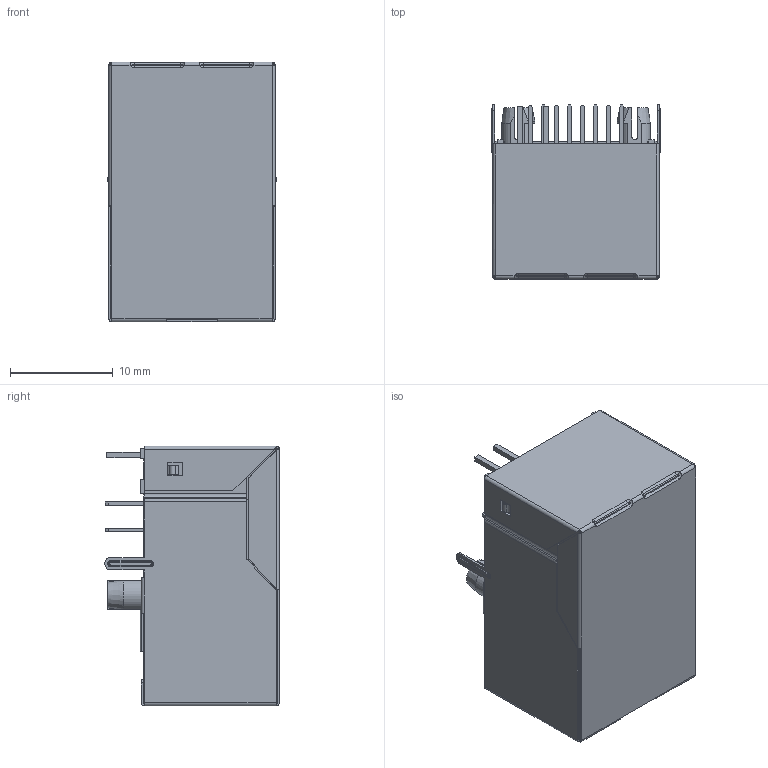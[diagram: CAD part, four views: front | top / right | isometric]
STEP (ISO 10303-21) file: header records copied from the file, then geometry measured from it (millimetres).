
FILE_DESCRIPTION((''),'2;1');
FILE_NAME('DGKYD311B083AB2A4DBN','2024-05-20T15:33:36',('Administrator'),(''),'CREO PARAMETRIC BY PTC INC, 2019010','CREO PARAMETRIC BY PTC INC, 2019010','');
FILE_SCHEMA(('CONFIG_CONTROL_DESIGN'));
Length unit declared in the file: millimetre
Products named in the file (1): DGKYD311B083AB2A4DBN
Bounding box: 16.4 x 17 x 25.3 mm (x, y, z)
Volume: 2869.9 mm3; surface area: 7863.6 mm2
Topology: 2 solids, 13 shells, 1713 faces, 5136 edges, 3331 vertices
Faces by surface type: plane 1316, cylinder 343, torus 24, extrusion 16, sphere 10, cone 4
Entity records: 58470 total; most frequent: CARTESIAN_POINT 11613, ORIENTED_EDGE 10252, DIRECTION 9249, EDGE_CURVE 5126, VECTOR 4093, LINE 4077, VERTEX_POINT 3331, AXIS2_PLACEMENT_3D 2578
